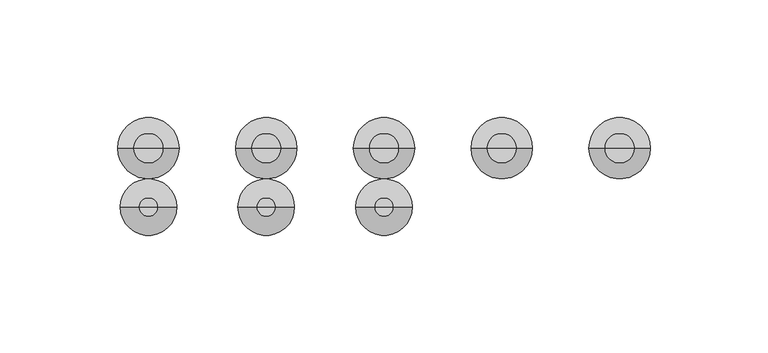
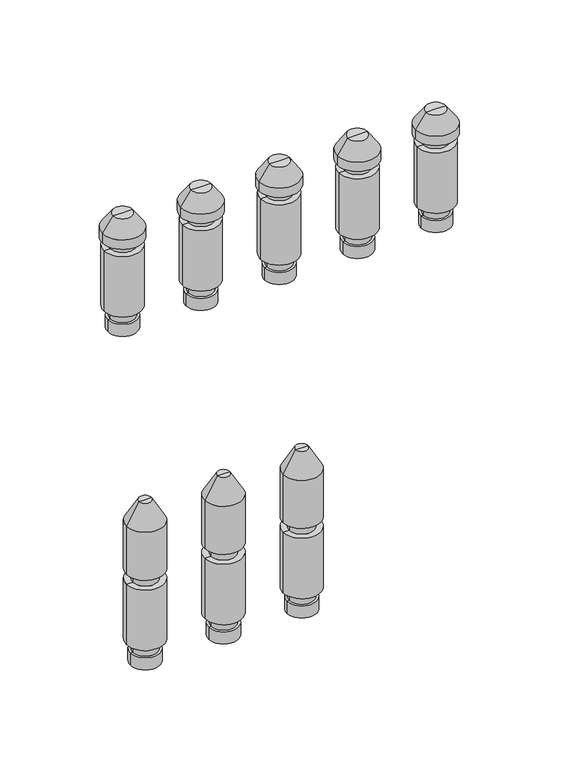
"""IFC4 building model written with IfcOpenShell, lengths in millimetres: valve geometry."""

from ifc_helpers import new_model, si_unit, frame, origin, place, context, project, spatial, polyline, circle_curve, source, transform, mapped, element, save
from ifc_brep_helpers import plane_surface, cylinder_surface, revolved_surface, advanced_brep


def valve_6797e1c4(model_context):
    return source(origin(), model_context, "Body", "AdvancedBrep", [
        advanced_brep(
        [(178.5, 0.0, -35.11267), (197.5, 0.0, -35.11267), (188.0, 0.0, -35.11267), (178.5, 0.0, -27.0369646), (197.5, 0.0, -27.0369646), (180.0, 0.0, -27.0369646), (196.0, 0.0, -27.0369646), (180.0, 0.0, -20.330253), (196.0, 0.0, -20.330253), (176.0, 0.0, -20.330253), (200.0, 0.0, -20.330253), (176.0, 0.0, 20.330253), (200.0, 0.0, 20.330253), (180.0, 0.0, 20.330253), (196.0, 0.0, 20.330253), (180.0, 0.0, 27.0474786), (196.0, 0.0, 27.0474786), (176.0, 0.0, 27.0474786), (200.0, 0.0, 27.0474786), (176.0, 0.0, 59.4084325), (200.0, 0.0, 59.4084325), (184.0, 0.0, 73.264839), (192.0, 0.0, 73.264839), (188.0, 0.0, 73.264839)],
        [
            (0, 1, circle_curve(frame((188.0, 0.0, -35.11267), z_axis=(0.0, 0.0, -1.0), x_axis=(1.0, 0.0, 0.0)), 9.5)),
            (1, 2),
            (2, 0),
            (1, 0, circle_curve(frame((188.0, 0.0, -35.11267), z_axis=(0.0, 0.0, -1.0), x_axis=(1.0, 0.0, 0.0)), 9.5)),
            (3, 4, circle_curve(frame((188.0, 0.0, -27.0369646), z_axis=(0.0, 0.0, -1.0), x_axis=(1.0, 0.0, 0.0)), 9.5)),
            (4, 1),
            (0, 3),
            (4, 3, circle_curve(frame((188.0, 0.0, -27.0369646), z_axis=(0.0, 0.0, -1.0), x_axis=(1.0, 0.0, 0.0)), 9.5)),
            (5, 6, circle_curve(frame((188.0, 0.0, -27.0369646), z_axis=(0.0, 0.0, -1.0), x_axis=(1.0, 0.0, 0.0)), 8.0)),
            (6, 4),
            (3, 5),
            (6, 5, circle_curve(frame((188.0, 0.0, -27.0369646), z_axis=(0.0, 0.0, -1.0), x_axis=(1.0, 0.0, 0.0)), 8.0)),
            (7, 8, circle_curve(frame((188.0, 0.0, -20.330253), z_axis=(0.0, 0.0, -1.0), x_axis=(1.0, 0.0, 0.0)), 8.0)),
            (8, 6),
            (5, 7),
            (8, 7, circle_curve(frame((188.0, 0.0, -20.330253), z_axis=(0.0, 0.0, -1.0), x_axis=(1.0, 0.0, 0.0)), 8.0)),
            (9, 10, circle_curve(frame((188.0, 0.0, -20.330253), z_axis=(0.0, 0.0, -1.0), x_axis=(1.0, 0.0, 0.0)), 12.0)),
            (10, 8),
            (7, 9),
            (10, 9, circle_curve(frame((188.0, 0.0, -20.330253), z_axis=(0.0, 0.0, -1.0), x_axis=(1.0, 0.0, 0.0)), 12.0)),
            (11, 12, circle_curve(frame((188.0, 0.0, 20.330253), z_axis=(0.0, 0.0, -1.0), x_axis=(1.0, 0.0, 0.0)), 12.0)),
            (12, 10),
            (9, 11),
            (12, 11, circle_curve(frame((188.0, 0.0, 20.330253), z_axis=(0.0, 0.0, -1.0), x_axis=(1.0, 0.0, 0.0)), 12.0)),
            (13, 14, circle_curve(frame((188.0, 0.0, 20.330253), z_axis=(0.0, 0.0, -1.0), x_axis=(1.0, 0.0, 0.0)), 8.0)),
            (14, 12),
            (11, 13),
            (14, 13, circle_curve(frame((188.0, 0.0, 20.330253), z_axis=(0.0, 0.0, -1.0), x_axis=(1.0, 0.0, 0.0)), 8.0)),
            (15, 16, circle_curve(frame((188.0, 0.0, 27.0474786), z_axis=(0.0, 0.0, -1.0), x_axis=(1.0, 0.0, 0.0)), 8.0)),
            (16, 14),
            (13, 15),
            (16, 15, circle_curve(frame((188.0, 0.0, 27.0474786), z_axis=(0.0, 0.0, -1.0), x_axis=(1.0, 0.0, 0.0)), 8.0)),
            (17, 18, circle_curve(frame((188.0, 0.0, 27.0474786), z_axis=(0.0, 0.0, -1.0), x_axis=(1.0, 0.0, 0.0)), 12.0)),
            (18, 16),
            (15, 17),
            (18, 17, circle_curve(frame((188.0, 0.0, 27.0474786), z_axis=(0.0, 0.0, -1.0), x_axis=(1.0, 0.0, 0.0)), 12.0)),
            (19, 20, circle_curve(frame((188.0, 0.0, 59.4084325), z_axis=(0.0, 0.0, -1.0), x_axis=(1.0, 0.0, 0.0)), 12.0)),
            (20, 18),
            (17, 19),
            (20, 19, circle_curve(frame((188.0, 0.0, 59.4084325), z_axis=(0.0, 0.0, -1.0), x_axis=(1.0, 0.0, 0.0)), 12.0)),
            (21, 22, circle_curve(frame((188.0, 0.0, 73.264839), z_axis=(0.0, 0.0, -1.0), x_axis=(1.0, 0.0, 0.0)), 4.0)),
            (22, 20),
            (19, 21),
            (22, 21, circle_curve(frame((188.0, 0.0, 73.264839), z_axis=(0.0, 0.0, -1.0), x_axis=(1.0, 0.0, 0.0)), 4.0)),
            (23, 22),
            (21, 23),
        ],
        [
            plane_surface(frame((188.0, 0.0, -35.11267), z_axis=(0.0, 0.0, -1.0), x_axis=(1.0, 0.0, 0.0))),
            cylinder_surface(frame((188.0, 0.0, 58.264839), z_axis=(0.0, 0.0, 1.0), x_axis=(1.0, 0.0, 0.0)), 9.5),
            plane_surface(frame((188.0, 0.0, -27.0369646), z_axis=(0.0, 0.0, 1.0), x_axis=(1.0, 0.0, 0.0))),
            cylinder_surface(frame((188.0, 0.0, 58.264839), z_axis=(0.0, 0.0, 1.0), x_axis=(1.0, 0.0, 0.0)), 8.0),
            plane_surface(frame((188.0, 0.0, -20.330253), z_axis=(0.0, 0.0, -1.0), x_axis=(1.0, 0.0, 0.0))),
            cylinder_surface(frame((188.0, 0.0, 58.264839), z_axis=(0.0, 0.0, 1.0), x_axis=(1.0, 0.0, 0.0)), 12.0),
            plane_surface(frame((188.0, 0.0, 20.330253), z_axis=(0.0, 0.0, 1.0), x_axis=(1.0, 0.0, 0.0))),
            plane_surface(frame((188.0, 0.0, 27.0474786), z_axis=(0.0, 0.0, -1.0), x_axis=(1.0, 0.0, 0.0))),
            revolved_surface(polyline([(200.0, 0.0, 59.4084325), (192.0, 0.0, 73.264839)]), (188.0, 0.0, 58.264839), (0.0, 0.0, 1.0)),
            plane_surface(frame((188.0, 0.0, 73.264839), z_axis=(0.0, 0.0, 1.0), x_axis=(1.0, 0.0, 0.0))),
        ],
        [
            (0, [[1, 2, 3]]),
            (0, [[4, -3, -2]]),
            (1, [[5, 6, -1, 7]]),
            (1, [[8, -7, -4, -6]]),
            (2, [[9, 10, -5, 11]]),
            (2, [[12, -11, -8, -10]]),
            (3, [[13, 14, -9, 15]]),
            (3, [[16, -15, -12, -14]]),
            (4, [[17, 18, -13, 19]]),
            (4, [[20, -19, -16, -18]]),
            (5, [[21, 22, -17, 23]]),
            (5, [[24, -23, -20, -22]]),
            (6, [[25, 26, -21, 27]]),
            (6, [[28, -27, -24, -26]]),
            (3, [[29, 30, -25, 31]]),
            (3, [[32, -31, -28, -30]]),
            (7, [[33, 34, -29, 35]]),
            (7, [[36, -35, -32, -34]]),
            (5, [[37, 38, -33, 39]]),
            (5, [[40, -39, -36, -38]]),
            (8, [[41, 42, -37, 43]]),
            (8, [[44, -43, -40, -42]]),
            (9, [[45, -41, 46]]),
            (9, [[-46, -44, -45]]),
        ],
    ),
        advanced_brep(
        [(128.5, 0.0, -35.11267), (147.5, 0.0, -35.11267), (138.0, 0.0, -35.11267), (128.5, 0.0, -27.0369646), (147.5, 0.0, -27.0369646), (130.0, 0.0, -27.0369646), (146.0, 0.0, -27.0369646), (130.0, 0.0, -20.330253), (146.0, 0.0, -20.330253), (126.0, 0.0, -20.330253), (150.0, 0.0, -20.330253), (126.0, 0.0, 20.330253), (150.0, 0.0, 20.330253), (130.0, 0.0, 20.330253), (146.0, 0.0, 20.330253), (130.0, 0.0, 27.0474786), (146.0, 0.0, 27.0474786), (126.0, 0.0, 27.0474786), (150.0, 0.0, 27.0474786), (126.0, 0.0, 59.4084325), (150.0, 0.0, 59.4084325), (134.0, 0.0, 73.264839), (142.0, 0.0, 73.264839), (138.0, 0.0, 73.264839)],
        [
            (0, 1, circle_curve(frame((138.0, 0.0, -35.11267), z_axis=(0.0, 0.0, -1.0), x_axis=(1.0, 0.0, 0.0)), 9.5)),
            (1, 2),
            (2, 0),
            (1, 0, circle_curve(frame((138.0, 0.0, -35.11267), z_axis=(0.0, 0.0, -1.0), x_axis=(1.0, 0.0, 0.0)), 9.5)),
            (3, 4, circle_curve(frame((138.0, 0.0, -27.0369646), z_axis=(0.0, 0.0, -1.0), x_axis=(1.0, 0.0, 0.0)), 9.5)),
            (4, 1),
            (0, 3),
            (4, 3, circle_curve(frame((138.0, 0.0, -27.0369646), z_axis=(0.0, 0.0, -1.0), x_axis=(1.0, 0.0, 0.0)), 9.5)),
            (5, 6, circle_curve(frame((138.0, 0.0, -27.0369646), z_axis=(0.0, 0.0, -1.0), x_axis=(1.0, 0.0, 0.0)), 8.0)),
            (6, 4),
            (3, 5),
            (6, 5, circle_curve(frame((138.0, 0.0, -27.0369646), z_axis=(0.0, 0.0, -1.0), x_axis=(1.0, 0.0, 0.0)), 8.0)),
            (7, 8, circle_curve(frame((138.0, 0.0, -20.330253), z_axis=(0.0, 0.0, -1.0), x_axis=(1.0, 0.0, 0.0)), 8.0)),
            (8, 6),
            (5, 7),
            (8, 7, circle_curve(frame((138.0, 0.0, -20.330253), z_axis=(0.0, 0.0, -1.0), x_axis=(1.0, 0.0, 0.0)), 8.0)),
            (9, 10, circle_curve(frame((138.0, 0.0, -20.330253), z_axis=(0.0, 0.0, -1.0), x_axis=(1.0, 0.0, 0.0)), 12.0)),
            (10, 8),
            (7, 9),
            (10, 9, circle_curve(frame((138.0, 0.0, -20.330253), z_axis=(0.0, 0.0, -1.0), x_axis=(1.0, 0.0, 0.0)), 12.0)),
            (11, 12, circle_curve(frame((138.0, 0.0, 20.330253), z_axis=(0.0, 0.0, -1.0), x_axis=(1.0, 0.0, 0.0)), 12.0)),
            (12, 10),
            (9, 11),
            (12, 11, circle_curve(frame((138.0, 0.0, 20.330253), z_axis=(0.0, 0.0, -1.0), x_axis=(1.0, 0.0, 0.0)), 12.0)),
            (13, 14, circle_curve(frame((138.0, 0.0, 20.330253), z_axis=(0.0, 0.0, -1.0), x_axis=(1.0, 0.0, 0.0)), 8.0)),
            (14, 12),
            (11, 13),
            (14, 13, circle_curve(frame((138.0, 0.0, 20.330253), z_axis=(0.0, 0.0, -1.0), x_axis=(1.0, 0.0, 0.0)), 8.0)),
            (15, 16, circle_curve(frame((138.0, 0.0, 27.0474786), z_axis=(0.0, 0.0, -1.0), x_axis=(1.0, 0.0, 0.0)), 8.0)),
            (16, 14),
            (13, 15),
            (16, 15, circle_curve(frame((138.0, 0.0, 27.0474786), z_axis=(0.0, 0.0, -1.0), x_axis=(1.0, 0.0, 0.0)), 8.0)),
            (17, 18, circle_curve(frame((138.0, 0.0, 27.0474786), z_axis=(0.0, 0.0, -1.0), x_axis=(1.0, 0.0, 0.0)), 12.0)),
            (18, 16),
            (15, 17),
            (18, 17, circle_curve(frame((138.0, 0.0, 27.0474786), z_axis=(0.0, 0.0, -1.0), x_axis=(1.0, 0.0, 0.0)), 12.0)),
            (19, 20, circle_curve(frame((138.0, 0.0, 59.4084325), z_axis=(0.0, 0.0, -1.0), x_axis=(1.0, 0.0, 0.0)), 12.0)),
            (20, 18),
            (17, 19),
            (20, 19, circle_curve(frame((138.0, 0.0, 59.4084325), z_axis=(0.0, 0.0, -1.0), x_axis=(1.0, 0.0, 0.0)), 12.0)),
            (21, 22, circle_curve(frame((138.0, 0.0, 73.264839), z_axis=(0.0, 0.0, -1.0), x_axis=(1.0, 0.0, 0.0)), 4.0)),
            (22, 20),
            (19, 21),
            (22, 21, circle_curve(frame((138.0, 0.0, 73.264839), z_axis=(0.0, 0.0, -1.0), x_axis=(1.0, 0.0, 0.0)), 4.0)),
            (23, 22),
            (21, 23),
        ],
        [
            plane_surface(frame((138.0, 0.0, -35.11267), z_axis=(0.0, 0.0, -1.0), x_axis=(1.0, 0.0, 0.0))),
            cylinder_surface(frame((138.0, 0.0, 58.264839), z_axis=(0.0, 0.0, 1.0), x_axis=(1.0, 0.0, 0.0)), 9.5),
            plane_surface(frame((138.0, 0.0, -27.0369646), z_axis=(0.0, 0.0, 1.0), x_axis=(1.0, 0.0, 0.0))),
            cylinder_surface(frame((138.0, 0.0, 58.264839), z_axis=(0.0, 0.0, 1.0), x_axis=(1.0, 0.0, 0.0)), 8.0),
            plane_surface(frame((138.0, 0.0, -20.330253), z_axis=(0.0, 0.0, -1.0), x_axis=(1.0, 0.0, 0.0))),
            cylinder_surface(frame((138.0, 0.0, 58.264839), z_axis=(0.0, 0.0, 1.0), x_axis=(1.0, 0.0, 0.0)), 12.0),
            plane_surface(frame((138.0, 0.0, 20.330253), z_axis=(0.0, 0.0, 1.0), x_axis=(1.0, 0.0, 0.0))),
            plane_surface(frame((138.0, 0.0, 27.0474786), z_axis=(0.0, 0.0, -1.0), x_axis=(1.0, 0.0, 0.0))),
            revolved_surface(polyline([(150.0, 0.0, 59.4084325), (142.0, 0.0, 73.264839)]), (138.0, 0.0, 58.264839), (0.0, 0.0, 1.0)),
            plane_surface(frame((138.0, 0.0, 73.264839), z_axis=(0.0, 0.0, 1.0), x_axis=(1.0, 0.0, 0.0))),
        ],
        [
            (0, [[1, 2, 3]]),
            (0, [[4, -3, -2]]),
            (1, [[5, 6, -1, 7]]),
            (1, [[8, -7, -4, -6]]),
            (2, [[9, 10, -5, 11]]),
            (2, [[12, -11, -8, -10]]),
            (3, [[13, 14, -9, 15]]),
            (3, [[16, -15, -12, -14]]),
            (4, [[17, 18, -13, 19]]),
            (4, [[20, -19, -16, -18]]),
            (5, [[21, 22, -17, 23]]),
            (5, [[24, -23, -20, -22]]),
            (6, [[25, 26, -21, 27]]),
            (6, [[28, -27, -24, -26]]),
            (3, [[29, 30, -25, 31]]),
            (3, [[32, -31, -28, -30]]),
            (7, [[33, 34, -29, 35]]),
            (7, [[36, -35, -32, -34]]),
            (5, [[37, 38, -33, 39]]),
            (5, [[40, -39, -36, -38]]),
            (8, [[41, 42, -37, 43]]),
            (8, [[44, -43, -40, -42]]),
            (9, [[45, -41, 46]]),
            (9, [[-46, -44, -45]]),
        ],
    ),
        advanced_brep(
        [(278.5, 25.0, 174.88733), (297.5, 25.0, 174.88733), (288.0, 25.0, 174.88733), (278.5, 25.0, 182.9630354), (297.5, 25.0, 182.9630354), (280.0, 25.0, 182.9630354), (296.0, 25.0, 182.9630354), (280.0, 25.0, 189.669747), (296.0, 25.0, 189.669747), (276.0, 25.0, 189.669747), (300.0, 25.0, 189.669747), (276.0, 25.0, 230.330253), (300.0, 25.0, 230.330253), (280.0, 25.0, 230.330253), (296.0, 25.0, 230.330253), (280.0, 25.0, 236.0474786), (296.0, 25.0, 236.0474786), (275.0, 25.0, 236.0474786), (301.0, 25.0, 236.0474786), (275.0, 25.0, 242.337955), (301.0, 25.0, 242.337955), (281.6551779, 25.0, 251.842534), (294.3448221, 25.0, 251.842534), (288.0, 25.0, 251.842534)],
        [
            (0, 1, circle_curve(frame((288.0, 25.0, 174.88733), z_axis=(0.0, 0.0, -1.0), x_axis=(1.0, 0.0, 0.0)), 9.5)),
            (1, 2),
            (2, 0),
            (1, 0, circle_curve(frame((288.0, 25.0, 174.88733), z_axis=(0.0, 0.0, -1.0), x_axis=(1.0, 0.0, 0.0)), 9.5)),
            (3, 4, circle_curve(frame((288.0, 25.0, 182.9630354), z_axis=(0.0, 0.0, -1.0), x_axis=(1.0, 0.0, 0.0)), 9.5)),
            (4, 1),
            (0, 3),
            (4, 3, circle_curve(frame((288.0, 25.0, 182.9630354), z_axis=(0.0, 0.0, -1.0), x_axis=(1.0, 0.0, 0.0)), 9.5)),
            (5, 6, circle_curve(frame((288.0, 25.0, 182.9630354), z_axis=(0.0, 0.0, -1.0), x_axis=(1.0, 0.0, 0.0)), 8.0)),
            (6, 4),
            (3, 5),
            (6, 5, circle_curve(frame((288.0, 25.0, 182.9630354), z_axis=(0.0, 0.0, -1.0), x_axis=(1.0, 0.0, 0.0)), 8.0)),
            (7, 8, circle_curve(frame((288.0, 25.0, 189.669747), z_axis=(0.0, 0.0, -1.0), x_axis=(1.0, 0.0, 0.0)), 8.0)),
            (8, 6),
            (5, 7),
            (8, 7, circle_curve(frame((288.0, 25.0, 189.669747), z_axis=(0.0, 0.0, -1.0), x_axis=(1.0, 0.0, 0.0)), 8.0)),
            (9, 10, circle_curve(frame((288.0, 25.0, 189.669747), z_axis=(0.0, 0.0, -1.0), x_axis=(1.0, 0.0, 0.0)), 12.0)),
            (10, 8),
            (7, 9),
            (10, 9, circle_curve(frame((288.0, 25.0, 189.669747), z_axis=(0.0, 0.0, -1.0), x_axis=(1.0, 0.0, 0.0)), 12.0)),
            (11, 12, circle_curve(frame((288.0, 25.0, 230.330253), z_axis=(0.0, 0.0, -1.0), x_axis=(1.0, 0.0, 0.0)), 12.0)),
            (12, 10),
            (9, 11),
            (12, 11, circle_curve(frame((288.0, 25.0, 230.330253), z_axis=(0.0, 0.0, -1.0), x_axis=(1.0, 0.0, 0.0)), 12.0)),
            (13, 14, circle_curve(frame((288.0, 25.0, 230.330253), z_axis=(0.0, 0.0, -1.0), x_axis=(1.0, 0.0, 0.0)), 8.0)),
            (14, 12),
            (11, 13),
            (14, 13, circle_curve(frame((288.0, 25.0, 230.330253), z_axis=(0.0, 0.0, -1.0), x_axis=(1.0, 0.0, 0.0)), 8.0)),
            (15, 16, circle_curve(frame((288.0, 25.0, 236.0474786), z_axis=(0.0, 0.0, -1.0), x_axis=(1.0, 0.0, 0.0)), 8.0)),
            (16, 14),
            (13, 15),
            (16, 15, circle_curve(frame((288.0, 25.0, 236.0474786), z_axis=(0.0, 0.0, -1.0), x_axis=(1.0, 0.0, 0.0)), 8.0)),
            (17, 18, circle_curve(frame((288.0, 25.0, 236.0474786), z_axis=(0.0, 0.0, -1.0), x_axis=(1.0, 0.0, 0.0)), 13.0)),
            (18, 16),
            (15, 17),
            (18, 17, circle_curve(frame((288.0, 25.0, 236.0474786), z_axis=(0.0, 0.0, -1.0), x_axis=(1.0, 0.0, 0.0)), 13.0)),
            (19, 20, circle_curve(frame((288.0, 25.0, 242.337955), z_axis=(0.0, 0.0, -1.0), x_axis=(1.0, 0.0, 0.0)), 13.0)),
            (20, 18),
            (17, 19),
            (20, 19, circle_curve(frame((288.0, 25.0, 242.337955), z_axis=(0.0, 0.0, -1.0), x_axis=(1.0, 0.0, 0.0)), 13.0)),
            (21, 22, circle_curve(frame((288.0, 25.0, 251.842534), z_axis=(0.0, 0.0, -1.0), x_axis=(1.0, 0.0, 0.0)), 6.3448221)),
            (22, 20),
            (19, 21),
            (22, 21, circle_curve(frame((288.0, 25.0, 251.842534), z_axis=(0.0, 0.0, -1.0), x_axis=(1.0, 0.0, 0.0)), 6.3448221)),
            (23, 22),
            (21, 23),
        ],
        [
            plane_surface(frame((288.0, 25.0, 174.88733), z_axis=(0.0, 0.0, -1.0), x_axis=(1.0, 0.0, 0.0))),
            cylinder_surface(frame((288.0, 25.0, 247.7026565), z_axis=(0.0, 0.0, 1.0), x_axis=(1.0, 0.0, 0.0)), 9.5),
            plane_surface(frame((288.0, 25.0, 182.9630354), z_axis=(0.0, 0.0, 1.0), x_axis=(1.0, 0.0, 0.0))),
            cylinder_surface(frame((288.0, 25.0, 247.7026565), z_axis=(0.0, 0.0, 1.0), x_axis=(1.0, 0.0, 0.0)), 8.0),
            plane_surface(frame((288.0, 25.0, 189.669747), z_axis=(0.0, 0.0, -1.0), x_axis=(1.0, 0.0, 0.0))),
            cylinder_surface(frame((288.0, 25.0, 247.7026565), z_axis=(0.0, 0.0, 1.0), x_axis=(1.0, 0.0, 0.0)), 12.0),
            plane_surface(frame((288.0, 25.0, 230.330253), z_axis=(0.0, 0.0, 1.0), x_axis=(1.0, 0.0, 0.0))),
            plane_surface(frame((288.0, 25.0, 236.0474786), z_axis=(0.0, 0.0, -1.0), x_axis=(1.0, 0.0, 0.0))),
            cylinder_surface(frame((288.0, 25.0, 247.7026565), z_axis=(0.0, 0.0, 1.0), x_axis=(1.0, 0.0, 0.0)), 13.0),
            revolved_surface(polyline([(301.0, 25.0, 242.337955), (294.3448221, 25.0, 251.842534)]), (288.0, 25.0, 247.7026565), (0.0, 0.0, 1.0)),
            plane_surface(frame((288.0, 25.0, 251.842534), z_axis=(0.0, 0.0, 1.0), x_axis=(1.0, 0.0, 0.0))),
        ],
        [
            (0, [[1, 2, 3]]),
            (0, [[4, -3, -2]]),
            (1, [[5, 6, -1, 7]]),
            (1, [[8, -7, -4, -6]]),
            (2, [[9, 10, -5, 11]]),
            (2, [[12, -11, -8, -10]]),
            (3, [[13, 14, -9, 15]]),
            (3, [[16, -15, -12, -14]]),
            (4, [[17, 18, -13, 19]]),
            (4, [[20, -19, -16, -18]]),
            (5, [[21, 22, -17, 23]]),
            (5, [[24, -23, -20, -22]]),
            (6, [[25, 26, -21, 27]]),
            (6, [[28, -27, -24, -26]]),
            (3, [[29, 30, -25, 31]]),
            (3, [[32, -31, -28, -30]]),
            (7, [[33, 34, -29, 35]]),
            (7, [[36, -35, -32, -34]]),
            (8, [[37, 38, -33, 39]]),
            (8, [[40, -39, -36, -38]]),
            (9, [[41, 42, -37, 43]]),
            (9, [[44, -43, -40, -42]]),
            (10, [[45, -41, 46]]),
            (10, [[-46, -44, -45]]),
        ],
    ),
        advanced_brep(
        [(228.5, 25.0, 174.88733), (247.5, 25.0, 174.88733), (238.0, 25.0, 174.88733), (228.5, 25.0, 182.9630354), (247.5, 25.0, 182.9630354), (230.0, 25.0, 182.9630354), (246.0, 25.0, 182.9630354), (230.0, 25.0, 189.669747), (246.0, 25.0, 189.669747), (226.0, 25.0, 189.669747), (250.0, 25.0, 189.669747), (226.0, 25.0, 230.330253), (250.0, 25.0, 230.330253), (230.0, 25.0, 230.330253), (246.0, 25.0, 230.330253), (230.0, 25.0, 236.0474786), (246.0, 25.0, 236.0474786), (225.0, 25.0, 236.0474786), (251.0, 25.0, 236.0474786), (225.0, 25.0, 242.337955), (251.0, 25.0, 242.337955), (231.6551779, 25.0, 251.842534), (244.3448221, 25.0, 251.842534), (238.0, 25.0, 251.842534)],
        [
            (0, 1, circle_curve(frame((238.0, 25.0, 174.88733), z_axis=(0.0, 0.0, -1.0), x_axis=(1.0, 0.0, 0.0)), 9.5)),
            (1, 2),
            (2, 0),
            (1, 0, circle_curve(frame((238.0, 25.0, 174.88733), z_axis=(0.0, 0.0, -1.0), x_axis=(1.0, 0.0, 0.0)), 9.5)),
            (3, 4, circle_curve(frame((238.0, 25.0, 182.9630354), z_axis=(0.0, 0.0, -1.0), x_axis=(1.0, 0.0, 0.0)), 9.5)),
            (4, 1),
            (0, 3),
            (4, 3, circle_curve(frame((238.0, 25.0, 182.9630354), z_axis=(0.0, 0.0, -1.0), x_axis=(1.0, 0.0, 0.0)), 9.5)),
            (5, 6, circle_curve(frame((238.0, 25.0, 182.9630354), z_axis=(0.0, 0.0, -1.0), x_axis=(1.0, 0.0, 0.0)), 8.0)),
            (6, 4),
            (3, 5),
            (6, 5, circle_curve(frame((238.0, 25.0, 182.9630354), z_axis=(0.0, 0.0, -1.0), x_axis=(1.0, 0.0, 0.0)), 8.0)),
            (7, 8, circle_curve(frame((238.0, 25.0, 189.669747), z_axis=(0.0, 0.0, -1.0), x_axis=(1.0, 0.0, 0.0)), 8.0)),
            (8, 6),
            (5, 7),
            (8, 7, circle_curve(frame((238.0, 25.0, 189.669747), z_axis=(0.0, 0.0, -1.0), x_axis=(1.0, 0.0, 0.0)), 8.0)),
            (9, 10, circle_curve(frame((238.0, 25.0, 189.669747), z_axis=(0.0, 0.0, -1.0), x_axis=(1.0, 0.0, 0.0)), 12.0)),
            (10, 8),
            (7, 9),
            (10, 9, circle_curve(frame((238.0, 25.0, 189.669747), z_axis=(0.0, 0.0, -1.0), x_axis=(1.0, 0.0, 0.0)), 12.0)),
            (11, 12, circle_curve(frame((238.0, 25.0, 230.330253), z_axis=(0.0, 0.0, -1.0), x_axis=(1.0, 0.0, 0.0)), 12.0)),
            (12, 10),
            (9, 11),
            (12, 11, circle_curve(frame((238.0, 25.0, 230.330253), z_axis=(0.0, 0.0, -1.0), x_axis=(1.0, 0.0, 0.0)), 12.0)),
            (13, 14, circle_curve(frame((238.0, 25.0, 230.330253), z_axis=(0.0, 0.0, -1.0), x_axis=(1.0, 0.0, 0.0)), 8.0)),
            (14, 12),
            (11, 13),
            (14, 13, circle_curve(frame((238.0, 25.0, 230.330253), z_axis=(0.0, 0.0, -1.0), x_axis=(1.0, 0.0, 0.0)), 8.0)),
            (15, 16, circle_curve(frame((238.0, 25.0, 236.0474786), z_axis=(0.0, 0.0, -1.0), x_axis=(1.0, 0.0, 0.0)), 8.0)),
            (16, 14),
            (13, 15),
            (16, 15, circle_curve(frame((238.0, 25.0, 236.0474786), z_axis=(0.0, 0.0, -1.0), x_axis=(1.0, 0.0, 0.0)), 8.0)),
            (17, 18, circle_curve(frame((238.0, 25.0, 236.0474786), z_axis=(0.0, 0.0, -1.0), x_axis=(1.0, 0.0, 0.0)), 13.0)),
            (18, 16),
            (15, 17),
            (18, 17, circle_curve(frame((238.0, 25.0, 236.0474786), z_axis=(0.0, 0.0, -1.0), x_axis=(1.0, 0.0, 0.0)), 13.0)),
            (19, 20, circle_curve(frame((238.0, 25.0, 242.337955), z_axis=(0.0, 0.0, -1.0), x_axis=(1.0, 0.0, 0.0)), 13.0)),
            (20, 18),
            (17, 19),
            (20, 19, circle_curve(frame((238.0, 25.0, 242.337955), z_axis=(0.0, 0.0, -1.0), x_axis=(1.0, 0.0, 0.0)), 13.0)),
            (21, 22, circle_curve(frame((238.0, 25.0, 251.842534), z_axis=(0.0, 0.0, -1.0), x_axis=(1.0, 0.0, 0.0)), 6.3448221)),
            (22, 20),
            (19, 21),
            (22, 21, circle_curve(frame((238.0, 25.0, 251.842534), z_axis=(0.0, 0.0, -1.0), x_axis=(1.0, 0.0, 0.0)), 6.3448221)),
            (23, 22),
            (21, 23),
        ],
        [
            plane_surface(frame((238.0, 25.0, 174.88733), z_axis=(0.0, 0.0, -1.0), x_axis=(1.0, 0.0, 0.0))),
            cylinder_surface(frame((238.0, 25.0, 247.7026565), z_axis=(0.0, 0.0, 1.0), x_axis=(1.0, 0.0, 0.0)), 9.5),
            plane_surface(frame((238.0, 25.0, 182.9630354), z_axis=(0.0, 0.0, 1.0), x_axis=(1.0, 0.0, 0.0))),
            cylinder_surface(frame((238.0, 25.0, 247.7026565), z_axis=(0.0, 0.0, 1.0), x_axis=(1.0, 0.0, 0.0)), 8.0),
            plane_surface(frame((238.0, 25.0, 189.669747), z_axis=(0.0, 0.0, -1.0), x_axis=(1.0, 0.0, 0.0))),
            cylinder_surface(frame((238.0, 25.0, 247.7026565), z_axis=(0.0, 0.0, 1.0), x_axis=(1.0, 0.0, 0.0)), 12.0),
            plane_surface(frame((238.0, 25.0, 230.330253), z_axis=(0.0, 0.0, 1.0), x_axis=(1.0, 0.0, 0.0))),
            plane_surface(frame((238.0, 25.0, 236.0474786), z_axis=(0.0, 0.0, -1.0), x_axis=(1.0, 0.0, 0.0))),
            cylinder_surface(frame((238.0, 25.0, 247.7026565), z_axis=(0.0, 0.0, 1.0), x_axis=(1.0, 0.0, 0.0)), 13.0),
            revolved_surface(polyline([(251.0, 25.0, 242.337955), (244.3448221, 25.0, 251.842534)]), (238.0, 25.0, 247.7026565), (0.0, 0.0, 1.0)),
            plane_surface(frame((238.0, 25.0, 251.842534), z_axis=(0.0, 0.0, 1.0), x_axis=(1.0, 0.0, 0.0))),
        ],
        [
            (0, [[1, 2, 3]]),
            (0, [[4, -3, -2]]),
            (1, [[5, 6, -1, 7]]),
            (1, [[8, -7, -4, -6]]),
            (2, [[9, 10, -5, 11]]),
            (2, [[12, -11, -8, -10]]),
            (3, [[13, 14, -9, 15]]),
            (3, [[16, -15, -12, -14]]),
            (4, [[17, 18, -13, 19]]),
            (4, [[20, -19, -16, -18]]),
            (5, [[21, 22, -17, 23]]),
            (5, [[24, -23, -20, -22]]),
            (6, [[25, 26, -21, 27]]),
            (6, [[28, -27, -24, -26]]),
            (3, [[29, 30, -25, 31]]),
            (3, [[32, -31, -28, -30]]),
            (7, [[33, 34, -29, 35]]),
            (7, [[36, -35, -32, -34]]),
            (8, [[37, 38, -33, 39]]),
            (8, [[40, -39, -36, -38]]),
            (9, [[41, 42, -37, 43]]),
            (9, [[44, -43, -40, -42]]),
            (10, [[45, -41, 46]]),
            (10, [[-46, -44, -45]]),
        ],
    ),
        advanced_brep(
        [(178.5, 25.0, 174.88733), (197.5, 25.0, 174.88733), (188.0, 25.0, 174.88733), (178.5, 25.0, 182.9630354), (197.5, 25.0, 182.9630354), (180.0, 25.0, 182.9630354), (196.0, 25.0, 182.9630354), (180.0, 25.0, 189.669747), (196.0, 25.0, 189.669747), (176.0, 25.0, 189.669747), (200.0, 25.0, 189.669747), (176.0, 25.0, 230.330253), (200.0, 25.0, 230.330253), (180.0, 25.0, 230.330253), (196.0, 25.0, 230.330253), (180.0, 25.0, 236.0474786), (196.0, 25.0, 236.0474786), (175.0, 25.0, 236.0474786), (201.0, 25.0, 236.0474786), (175.0, 25.0, 242.337955), (201.0, 25.0, 242.337955), (181.6551779, 25.0, 251.842534), (194.3448221, 25.0, 251.842534), (188.0, 25.0, 251.842534)],
        [
            (0, 1, circle_curve(frame((188.0, 25.0, 174.88733), z_axis=(0.0, 0.0, -1.0), x_axis=(1.0, 0.0, 0.0)), 9.5)),
            (1, 2),
            (2, 0),
            (1, 0, circle_curve(frame((188.0, 25.0, 174.88733), z_axis=(0.0, 0.0, -1.0), x_axis=(1.0, 0.0, 0.0)), 9.5)),
            (3, 4, circle_curve(frame((188.0, 25.0, 182.9630354), z_axis=(0.0, 0.0, -1.0), x_axis=(1.0, 0.0, 0.0)), 9.5)),
            (4, 1),
            (0, 3),
            (4, 3, circle_curve(frame((188.0, 25.0, 182.9630354), z_axis=(0.0, 0.0, -1.0), x_axis=(1.0, 0.0, 0.0)), 9.5)),
            (5, 6, circle_curve(frame((188.0, 25.0, 182.9630354), z_axis=(0.0, 0.0, -1.0), x_axis=(1.0, 0.0, 0.0)), 8.0)),
            (6, 4),
            (3, 5),
            (6, 5, circle_curve(frame((188.0, 25.0, 182.9630354), z_axis=(0.0, 0.0, -1.0), x_axis=(1.0, 0.0, 0.0)), 8.0)),
            (7, 8, circle_curve(frame((188.0, 25.0, 189.669747), z_axis=(0.0, 0.0, -1.0), x_axis=(1.0, 0.0, 0.0)), 8.0)),
            (8, 6),
            (5, 7),
            (8, 7, circle_curve(frame((188.0, 25.0, 189.669747), z_axis=(0.0, 0.0, -1.0), x_axis=(1.0, 0.0, 0.0)), 8.0)),
            (9, 10, circle_curve(frame((188.0, 25.0, 189.669747), z_axis=(0.0, 0.0, -1.0), x_axis=(1.0, 0.0, 0.0)), 12.0)),
            (10, 8),
            (7, 9),
            (10, 9, circle_curve(frame((188.0, 25.0, 189.669747), z_axis=(0.0, 0.0, -1.0), x_axis=(1.0, 0.0, 0.0)), 12.0)),
            (11, 12, circle_curve(frame((188.0, 25.0, 230.330253), z_axis=(0.0, 0.0, -1.0), x_axis=(1.0, 0.0, 0.0)), 12.0)),
            (12, 10),
            (9, 11),
            (12, 11, circle_curve(frame((188.0, 25.0, 230.330253), z_axis=(0.0, 0.0, -1.0), x_axis=(1.0, 0.0, 0.0)), 12.0)),
            (13, 14, circle_curve(frame((188.0, 25.0, 230.330253), z_axis=(0.0, 0.0, -1.0), x_axis=(1.0, 0.0, 0.0)), 8.0)),
            (14, 12),
            (11, 13),
            (14, 13, circle_curve(frame((188.0, 25.0, 230.330253), z_axis=(0.0, 0.0, -1.0), x_axis=(1.0, 0.0, 0.0)), 8.0)),
            (15, 16, circle_curve(frame((188.0, 25.0, 236.0474786), z_axis=(0.0, 0.0, -1.0), x_axis=(1.0, 0.0, 0.0)), 8.0)),
            (16, 14),
            (13, 15),
            (16, 15, circle_curve(frame((188.0, 25.0, 236.0474786), z_axis=(0.0, 0.0, -1.0), x_axis=(1.0, 0.0, 0.0)), 8.0)),
            (17, 18, circle_curve(frame((188.0, 25.0, 236.0474786), z_axis=(0.0, 0.0, -1.0), x_axis=(1.0, 0.0, 0.0)), 13.0)),
            (18, 16),
            (15, 17),
            (18, 17, circle_curve(frame((188.0, 25.0, 236.0474786), z_axis=(0.0, 0.0, -1.0), x_axis=(1.0, 0.0, 0.0)), 13.0)),
            (19, 20, circle_curve(frame((188.0, 25.0, 242.337955), z_axis=(0.0, 0.0, -1.0), x_axis=(1.0, 0.0, 0.0)), 13.0)),
            (20, 18),
            (17, 19),
            (20, 19, circle_curve(frame((188.0, 25.0, 242.337955), z_axis=(0.0, 0.0, -1.0), x_axis=(1.0, 0.0, 0.0)), 13.0)),
            (21, 22, circle_curve(frame((188.0, 25.0, 251.842534), z_axis=(0.0, 0.0, -1.0), x_axis=(1.0, 0.0, 0.0)), 6.3448221)),
            (22, 20),
            (19, 21),
            (22, 21, circle_curve(frame((188.0, 25.0, 251.842534), z_axis=(0.0, 0.0, -1.0), x_axis=(1.0, 0.0, 0.0)), 6.3448221)),
            (23, 22),
            (21, 23),
        ],
        [
            plane_surface(frame((188.0, 25.0, 174.88733), z_axis=(0.0, 0.0, -1.0), x_axis=(1.0, 0.0, 0.0))),
            cylinder_surface(frame((188.0, 25.0, 247.7026565), z_axis=(0.0, 0.0, 1.0), x_axis=(1.0, 0.0, 0.0)), 9.5),
            plane_surface(frame((188.0, 25.0, 182.9630354), z_axis=(0.0, 0.0, 1.0), x_axis=(1.0, 0.0, 0.0))),
            cylinder_surface(frame((188.0, 25.0, 247.7026565), z_axis=(0.0, 0.0, 1.0), x_axis=(1.0, 0.0, 0.0)), 8.0),
            plane_surface(frame((188.0, 25.0, 189.669747), z_axis=(0.0, 0.0, -1.0), x_axis=(1.0, 0.0, 0.0))),
            cylinder_surface(frame((188.0, 25.0, 247.7026565), z_axis=(0.0, 0.0, 1.0), x_axis=(1.0, 0.0, 0.0)), 12.0),
            plane_surface(frame((188.0, 25.0, 230.330253), z_axis=(0.0, 0.0, 1.0), x_axis=(1.0, 0.0, 0.0))),
            plane_surface(frame((188.0, 25.0, 236.0474786), z_axis=(0.0, 0.0, -1.0), x_axis=(1.0, 0.0, 0.0))),
            cylinder_surface(frame((188.0, 25.0, 247.7026565), z_axis=(0.0, 0.0, 1.0), x_axis=(1.0, 0.0, 0.0)), 13.0),
            revolved_surface(polyline([(201.0, 25.0, 242.337955), (194.3448221, 25.0, 251.842534)]), (188.0, 25.0, 247.7026565), (0.0, 0.0, 1.0)),
            plane_surface(frame((188.0, 25.0, 251.842534), z_axis=(0.0, 0.0, 1.0), x_axis=(1.0, 0.0, 0.0))),
        ],
        [
            (0, [[1, 2, 3]]),
            (0, [[4, -3, -2]]),
            (1, [[5, 6, -1, 7]]),
            (1, [[8, -7, -4, -6]]),
            (2, [[9, 10, -5, 11]]),
            (2, [[12, -11, -8, -10]]),
            (3, [[13, 14, -9, 15]]),
            (3, [[16, -15, -12, -14]]),
            (4, [[17, 18, -13, 19]]),
            (4, [[20, -19, -16, -18]]),
            (5, [[21, 22, -17, 23]]),
            (5, [[24, -23, -20, -22]]),
            (6, [[25, 26, -21, 27]]),
            (6, [[28, -27, -24, -26]]),
            (3, [[29, 30, -25, 31]]),
            (3, [[32, -31, -28, -30]]),
            (7, [[33, 34, -29, 35]]),
            (7, [[36, -35, -32, -34]]),
            (8, [[37, 38, -33, 39]]),
            (8, [[40, -39, -36, -38]]),
            (9, [[41, 42, -37, 43]]),
            (9, [[44, -43, -40, -42]]),
            (10, [[45, -41, 46]]),
            (10, [[-46, -44, -45]]),
        ],
    ),
        advanced_brep(
        [(128.5, 25.0, 174.88733), (147.5, 25.0, 174.88733), (138.0, 25.0, 174.88733), (128.5, 25.0, 182.9630354), (147.5, 25.0, 182.9630354), (130.0, 25.0, 182.9630354), (146.0, 25.0, 182.9630354), (130.0, 25.0, 189.669747), (146.0, 25.0, 189.669747), (126.0, 25.0, 189.669747), (150.0, 25.0, 189.669747), (126.0, 25.0, 230.330253), (150.0, 25.0, 230.330253), (130.0, 25.0, 230.330253), (146.0, 25.0, 230.330253), (130.0, 25.0, 236.0474786), (146.0, 25.0, 236.0474786), (125.0, 25.0, 236.0474786), (151.0, 25.0, 236.0474786), (125.0, 25.0, 242.337955), (151.0, 25.0, 242.337955), (131.6551779, 25.0, 251.842534), (144.3448221, 25.0, 251.842534), (138.0, 25.0, 251.842534)],
        [
            (0, 1, circle_curve(frame((138.0, 25.0, 174.88733), z_axis=(0.0, 0.0, -1.0), x_axis=(1.0, 0.0, 0.0)), 9.5)),
            (1, 2),
            (2, 0),
            (1, 0, circle_curve(frame((138.0, 25.0, 174.88733), z_axis=(0.0, 0.0, -1.0), x_axis=(1.0, 0.0, 0.0)), 9.5)),
            (3, 4, circle_curve(frame((138.0, 25.0, 182.9630354), z_axis=(0.0, 0.0, -1.0), x_axis=(1.0, 0.0, 0.0)), 9.5)),
            (4, 1),
            (0, 3),
            (4, 3, circle_curve(frame((138.0, 25.0, 182.9630354), z_axis=(0.0, 0.0, -1.0), x_axis=(1.0, 0.0, 0.0)), 9.5)),
            (5, 6, circle_curve(frame((138.0, 25.0, 182.9630354), z_axis=(0.0, 0.0, -1.0), x_axis=(1.0, 0.0, 0.0)), 8.0)),
            (6, 4),
            (3, 5),
            (6, 5, circle_curve(frame((138.0, 25.0, 182.9630354), z_axis=(0.0, 0.0, -1.0), x_axis=(1.0, 0.0, 0.0)), 8.0)),
            (7, 8, circle_curve(frame((138.0, 25.0, 189.669747), z_axis=(0.0, 0.0, -1.0), x_axis=(1.0, 0.0, 0.0)), 8.0)),
            (8, 6),
            (5, 7),
            (8, 7, circle_curve(frame((138.0, 25.0, 189.669747), z_axis=(0.0, 0.0, -1.0), x_axis=(1.0, 0.0, 0.0)), 8.0)),
            (9, 10, circle_curve(frame((138.0, 25.0, 189.669747), z_axis=(0.0, 0.0, -1.0), x_axis=(1.0, 0.0, 0.0)), 12.0)),
            (10, 8),
            (7, 9),
            (10, 9, circle_curve(frame((138.0, 25.0, 189.669747), z_axis=(0.0, 0.0, -1.0), x_axis=(1.0, 0.0, 0.0)), 12.0)),
            (11, 12, circle_curve(frame((138.0, 25.0, 230.330253), z_axis=(0.0, 0.0, -1.0), x_axis=(1.0, 0.0, 0.0)), 12.0)),
            (12, 10),
            (9, 11),
            (12, 11, circle_curve(frame((138.0, 25.0, 230.330253), z_axis=(0.0, 0.0, -1.0), x_axis=(1.0, 0.0, 0.0)), 12.0)),
            (13, 14, circle_curve(frame((138.0, 25.0, 230.330253), z_axis=(0.0, 0.0, -1.0), x_axis=(1.0, 0.0, 0.0)), 8.0)),
            (14, 12),
            (11, 13),
            (14, 13, circle_curve(frame((138.0, 25.0, 230.330253), z_axis=(0.0, 0.0, -1.0), x_axis=(1.0, 0.0, 0.0)), 8.0)),
            (15, 16, circle_curve(frame((138.0, 25.0, 236.0474786), z_axis=(0.0, 0.0, -1.0), x_axis=(1.0, 0.0, 0.0)), 8.0)),
            (16, 14),
            (13, 15),
            (16, 15, circle_curve(frame((138.0, 25.0, 236.0474786), z_axis=(0.0, 0.0, -1.0), x_axis=(1.0, 0.0, 0.0)), 8.0)),
            (17, 18, circle_curve(frame((138.0, 25.0, 236.0474786), z_axis=(0.0, 0.0, -1.0), x_axis=(1.0, 0.0, 0.0)), 13.0)),
            (18, 16),
            (15, 17),
            (18, 17, circle_curve(frame((138.0, 25.0, 236.0474786), z_axis=(0.0, 0.0, -1.0), x_axis=(1.0, 0.0, 0.0)), 13.0)),
            (19, 20, circle_curve(frame((138.0, 25.0, 242.337955), z_axis=(0.0, 0.0, -1.0), x_axis=(1.0, 0.0, 0.0)), 13.0)),
            (20, 18),
            (17, 19),
            (20, 19, circle_curve(frame((138.0, 25.0, 242.337955), z_axis=(0.0, 0.0, -1.0), x_axis=(1.0, 0.0, 0.0)), 13.0)),
            (21, 22, circle_curve(frame((138.0, 25.0, 251.842534), z_axis=(0.0, 0.0, -1.0), x_axis=(1.0, 0.0, 0.0)), 6.3448221)),
            (22, 20),
            (19, 21),
            (22, 21, circle_curve(frame((138.0, 25.0, 251.842534), z_axis=(0.0, 0.0, -1.0), x_axis=(1.0, 0.0, 0.0)), 6.3448221)),
            (23, 22),
            (21, 23),
        ],
        [
            plane_surface(frame((138.0, 25.0, 174.88733), z_axis=(0.0, 0.0, -1.0), x_axis=(1.0, 0.0, 0.0))),
            cylinder_surface(frame((138.0, 25.0, 247.7026565), z_axis=(0.0, 0.0, 1.0), x_axis=(1.0, 0.0, 0.0)), 9.5),
            plane_surface(frame((138.0, 25.0, 182.9630354), z_axis=(0.0, 0.0, 1.0), x_axis=(1.0, 0.0, 0.0))),
            cylinder_surface(frame((138.0, 25.0, 247.7026565), z_axis=(0.0, 0.0, 1.0), x_axis=(1.0, 0.0, 0.0)), 8.0),
            plane_surface(frame((138.0, 25.0, 189.669747), z_axis=(0.0, 0.0, -1.0), x_axis=(1.0, 0.0, 0.0))),
            cylinder_surface(frame((138.0, 25.0, 247.7026565), z_axis=(0.0, 0.0, 1.0), x_axis=(1.0, 0.0, 0.0)), 12.0),
            plane_surface(frame((138.0, 25.0, 230.330253), z_axis=(0.0, 0.0, 1.0), x_axis=(1.0, 0.0, 0.0))),
            plane_surface(frame((138.0, 25.0, 236.0474786), z_axis=(0.0, 0.0, -1.0), x_axis=(1.0, 0.0, 0.0))),
            cylinder_surface(frame((138.0, 25.0, 247.7026565), z_axis=(0.0, 0.0, 1.0), x_axis=(1.0, 0.0, 0.0)), 13.0),
            revolved_surface(polyline([(151.0, 25.0, 242.337955), (144.3448221, 25.0, 251.842534)]), (138.0, 25.0, 247.7026565), (0.0, 0.0, 1.0)),
            plane_surface(frame((138.0, 25.0, 251.842534), z_axis=(0.0, 0.0, 1.0), x_axis=(1.0, 0.0, 0.0))),
        ],
        [
            (0, [[1, 2, 3]]),
            (0, [[4, -3, -2]]),
            (1, [[5, 6, -1, 7]]),
            (1, [[8, -7, -4, -6]]),
            (2, [[9, 10, -5, 11]]),
            (2, [[12, -11, -8, -10]]),
            (3, [[13, 14, -9, 15]]),
            (3, [[16, -15, -12, -14]]),
            (4, [[17, 18, -13, 19]]),
            (4, [[20, -19, -16, -18]]),
            (5, [[21, 22, -17, 23]]),
            (5, [[24, -23, -20, -22]]),
            (6, [[25, 26, -21, 27]]),
            (6, [[28, -27, -24, -26]]),
            (3, [[29, 30, -25, 31]]),
            (3, [[32, -31, -28, -30]]),
            (7, [[33, 34, -29, 35]]),
            (7, [[36, -35, -32, -34]]),
            (8, [[37, 38, -33, 39]]),
            (8, [[40, -39, -36, -38]]),
            (9, [[41, 42, -37, 43]]),
            (9, [[44, -43, -40, -42]]),
            (10, [[45, -41, 46]]),
            (10, [[-46, -44, -45]]),
        ],
    ),
        advanced_brep(
        [(78.5, 0.0, -35.11267), (97.5, 0.0, -35.11267), (88.0, 0.0, -35.11267), (78.5, 0.0, -27.0369646), (97.5, 0.0, -27.0369646), (80.0, 0.0, -27.0369646), (96.0, 0.0, -27.0369646), (80.0, 0.0, -20.330253), (96.0, 0.0, -20.330253), (76.0, 0.0, -20.330253), (100.0, 0.0, -20.330253), (76.0, 0.0, 20.330253), (100.0, 0.0, 20.330253), (80.0, 0.0, 20.330253), (96.0, 0.0, 20.330253), (80.0, 0.0, 27.0474786), (96.0, 0.0, 27.0474786), (76.0, 0.0, 27.0474786), (100.0, 0.0, 27.0474786), (76.0, 0.0, 59.4084325), (100.0, 0.0, 59.4084325), (84.0, 0.0, 73.264839), (92.0, 0.0, 73.264839), (88.0, 0.0, 73.264839)],
        [
            (0, 1, circle_curve(frame((88.0, 0.0, -35.11267), z_axis=(0.0, 0.0, -1.0), x_axis=(1.0, 0.0, 0.0)), 9.5)),
            (1, 2),
            (2, 0),
            (1, 0, circle_curve(frame((88.0, 0.0, -35.11267), z_axis=(0.0, 0.0, -1.0), x_axis=(1.0, 0.0, 0.0)), 9.5)),
            (3, 4, circle_curve(frame((88.0, 0.0, -27.0369646), z_axis=(0.0, 0.0, -1.0), x_axis=(1.0, 0.0, 0.0)), 9.5)),
            (4, 1),
            (0, 3),
            (4, 3, circle_curve(frame((88.0, 0.0, -27.0369646), z_axis=(0.0, 0.0, -1.0), x_axis=(1.0, 0.0, 0.0)), 9.5)),
            (5, 6, circle_curve(frame((88.0, 0.0, -27.0369646), z_axis=(0.0, 0.0, -1.0), x_axis=(1.0, 0.0, 0.0)), 8.0)),
            (6, 4),
            (3, 5),
            (6, 5, circle_curve(frame((88.0, 0.0, -27.0369646), z_axis=(0.0, 0.0, -1.0), x_axis=(1.0, 0.0, 0.0)), 8.0)),
            (7, 8, circle_curve(frame((88.0, 0.0, -20.330253), z_axis=(0.0, 0.0, -1.0), x_axis=(1.0, 0.0, 0.0)), 8.0)),
            (8, 6),
            (5, 7),
            (8, 7, circle_curve(frame((88.0, 0.0, -20.330253), z_axis=(0.0, 0.0, -1.0), x_axis=(1.0, 0.0, 0.0)), 8.0)),
            (9, 10, circle_curve(frame((88.0, 0.0, -20.330253), z_axis=(0.0, 0.0, -1.0), x_axis=(1.0, 0.0, 0.0)), 12.0)),
            (10, 8),
            (7, 9),
            (10, 9, circle_curve(frame((88.0, 0.0, -20.330253), z_axis=(0.0, 0.0, -1.0), x_axis=(1.0, 0.0, 0.0)), 12.0)),
            (11, 12, circle_curve(frame((88.0, 0.0, 20.330253), z_axis=(0.0, 0.0, -1.0), x_axis=(1.0, 0.0, 0.0)), 12.0)),
            (12, 10),
            (9, 11),
            (12, 11, circle_curve(frame((88.0, 0.0, 20.330253), z_axis=(0.0, 0.0, -1.0), x_axis=(1.0, 0.0, 0.0)), 12.0)),
            (13, 14, circle_curve(frame((88.0, 0.0, 20.330253), z_axis=(0.0, 0.0, -1.0), x_axis=(1.0, 0.0, 0.0)), 8.0)),
            (14, 12),
            (11, 13),
            (14, 13, circle_curve(frame((88.0, 0.0, 20.330253), z_axis=(0.0, 0.0, -1.0), x_axis=(1.0, 0.0, 0.0)), 8.0)),
            (15, 16, circle_curve(frame((88.0, 0.0, 27.0474786), z_axis=(0.0, 0.0, -1.0), x_axis=(1.0, 0.0, 0.0)), 8.0)),
            (16, 14),
            (13, 15),
            (16, 15, circle_curve(frame((88.0, 0.0, 27.0474786), z_axis=(0.0, 0.0, -1.0), x_axis=(1.0, 0.0, 0.0)), 8.0)),
            (17, 18, circle_curve(frame((88.0, 0.0, 27.0474786), z_axis=(0.0, 0.0, -1.0), x_axis=(1.0, 0.0, 0.0)), 12.0)),
            (18, 16),
            (15, 17),
            (18, 17, circle_curve(frame((88.0, 0.0, 27.0474786), z_axis=(0.0, 0.0, -1.0), x_axis=(1.0, 0.0, 0.0)), 12.0)),
            (19, 20, circle_curve(frame((88.0, 0.0, 59.4084325), z_axis=(0.0, 0.0, -1.0), x_axis=(1.0, 0.0, 0.0)), 12.0)),
            (20, 18),
            (17, 19),
            (20, 19, circle_curve(frame((88.0, 0.0, 59.4084325), z_axis=(0.0, 0.0, -1.0), x_axis=(1.0, 0.0, 0.0)), 12.0)),
            (21, 22, circle_curve(frame((88.0, 0.0, 73.264839), z_axis=(0.0, 0.0, -1.0), x_axis=(1.0, 0.0, 0.0)), 4.0)),
            (22, 20),
            (19, 21),
            (22, 21, circle_curve(frame((88.0, 0.0, 73.264839), z_axis=(0.0, 0.0, -1.0), x_axis=(1.0, 0.0, 0.0)), 4.0)),
            (23, 22),
            (21, 23),
        ],
        [
            plane_surface(frame((88.0, 0.0, -35.11267), z_axis=(0.0, 0.0, -1.0), x_axis=(1.0, 0.0, 0.0))),
            cylinder_surface(frame((88.0, 0.0, 58.264839), z_axis=(0.0, 0.0, 1.0), x_axis=(1.0, 0.0, 0.0)), 9.5),
            plane_surface(frame((88.0, 0.0, -27.0369646), z_axis=(0.0, 0.0, 1.0), x_axis=(1.0, 0.0, 0.0))),
            cylinder_surface(frame((88.0, 0.0, 58.264839), z_axis=(0.0, 0.0, 1.0), x_axis=(1.0, 0.0, 0.0)), 8.0),
            plane_surface(frame((88.0, 0.0, -20.330253), z_axis=(0.0, 0.0, -1.0), x_axis=(1.0, 0.0, 0.0))),
            cylinder_surface(frame((88.0, 0.0, 58.264839), z_axis=(0.0, 0.0, 1.0), x_axis=(1.0, 0.0, 0.0)), 12.0),
            plane_surface(frame((88.0, 0.0, 20.330253), z_axis=(0.0, 0.0, 1.0), x_axis=(1.0, 0.0, 0.0))),
            plane_surface(frame((88.0, 0.0, 27.0474786), z_axis=(0.0, 0.0, -1.0), x_axis=(1.0, 0.0, 0.0))),
            revolved_surface(polyline([(100.0, 0.0, 59.4084325), (92.0, 0.0, 73.264839)]), (88.0, 0.0, 58.264839), (0.0, 0.0, 1.0)),
            plane_surface(frame((88.0, 0.0, 73.264839), z_axis=(0.0, 0.0, 1.0), x_axis=(1.0, 0.0, 0.0))),
        ],
        [
            (0, [[1, 2, 3]]),
            (0, [[4, -3, -2]]),
            (1, [[5, 6, -1, 7]]),
            (1, [[8, -7, -4, -6]]),
            (2, [[9, 10, -5, 11]]),
            (2, [[12, -11, -8, -10]]),
            (3, [[13, 14, -9, 15]]),
            (3, [[16, -15, -12, -14]]),
            (4, [[17, 18, -13, 19]]),
            (4, [[20, -19, -16, -18]]),
            (5, [[21, 22, -17, 23]]),
            (5, [[24, -23, -20, -22]]),
            (6, [[25, 26, -21, 27]]),
            (6, [[28, -27, -24, -26]]),
            (3, [[29, 30, -25, 31]]),
            (3, [[32, -31, -28, -30]]),
            (7, [[33, 34, -29, 35]]),
            (7, [[36, -35, -32, -34]]),
            (5, [[37, 38, -33, 39]]),
            (5, [[40, -39, -36, -38]]),
            (8, [[41, 42, -37, 43]]),
            (8, [[44, -43, -40, -42]]),
            (9, [[45, -41, 46]]),
            (9, [[-46, -44, -45]]),
        ],
    ),
        advanced_brep(
        [(78.5, 25.0, 174.88733), (97.5, 25.0, 174.88733), (88.0, 25.0, 174.88733), (78.5, 25.0, 182.9630354), (97.5, 25.0, 182.9630354), (80.0, 25.0, 182.9630354), (96.0, 25.0, 182.9630354), (80.0, 25.0, 189.669747), (96.0, 25.0, 189.669747), (76.0, 25.0, 189.669747), (100.0, 25.0, 189.669747), (76.0, 25.0, 230.330253), (100.0, 25.0, 230.330253), (80.0, 25.0, 230.330253), (96.0, 25.0, 230.330253), (80.0, 25.0, 236.0474786), (96.0, 25.0, 236.0474786), (75.0, 25.0, 236.0474786), (101.0, 25.0, 236.0474786), (75.0, 25.0, 242.337955), (101.0, 25.0, 242.337955), (81.6551779, 25.0, 251.842534), (94.3448221, 25.0, 251.842534), (88.0, 25.0, 251.842534)],
        [
            (0, 1, circle_curve(frame((88.0, 25.0, 174.88733), z_axis=(0.0, 0.0, -1.0), x_axis=(1.0, 0.0, 0.0)), 9.5)),
            (1, 2),
            (2, 0),
            (1, 0, circle_curve(frame((88.0, 25.0, 174.88733), z_axis=(0.0, 0.0, -1.0), x_axis=(1.0, 0.0, 0.0)), 9.5)),
            (3, 4, circle_curve(frame((88.0, 25.0, 182.9630354), z_axis=(0.0, 0.0, -1.0), x_axis=(1.0, 0.0, 0.0)), 9.5)),
            (4, 1),
            (0, 3),
            (4, 3, circle_curve(frame((88.0, 25.0, 182.9630354), z_axis=(0.0, 0.0, -1.0), x_axis=(1.0, 0.0, 0.0)), 9.5)),
            (5, 6, circle_curve(frame((88.0, 25.0, 182.9630354), z_axis=(0.0, 0.0, -1.0), x_axis=(1.0, 0.0, 0.0)), 8.0)),
            (6, 4),
            (3, 5),
            (6, 5, circle_curve(frame((88.0, 25.0, 182.9630354), z_axis=(0.0, 0.0, -1.0), x_axis=(1.0, 0.0, 0.0)), 8.0)),
            (7, 8, circle_curve(frame((88.0, 25.0, 189.669747), z_axis=(0.0, 0.0, -1.0), x_axis=(1.0, 0.0, 0.0)), 8.0)),
            (8, 6),
            (5, 7),
            (8, 7, circle_curve(frame((88.0, 25.0, 189.669747), z_axis=(0.0, 0.0, -1.0), x_axis=(1.0, 0.0, 0.0)), 8.0)),
            (9, 10, circle_curve(frame((88.0, 25.0, 189.669747), z_axis=(0.0, 0.0, -1.0), x_axis=(1.0, 0.0, 0.0)), 12.0)),
            (10, 8),
            (7, 9),
            (10, 9, circle_curve(frame((88.0, 25.0, 189.669747), z_axis=(0.0, 0.0, -1.0), x_axis=(1.0, 0.0, 0.0)), 12.0)),
            (11, 12, circle_curve(frame((88.0, 25.0, 230.330253), z_axis=(0.0, 0.0, -1.0), x_axis=(1.0, 0.0, 0.0)), 12.0)),
            (12, 10),
            (9, 11),
            (12, 11, circle_curve(frame((88.0, 25.0, 230.330253), z_axis=(0.0, 0.0, -1.0), x_axis=(1.0, 0.0, 0.0)), 12.0)),
            (13, 14, circle_curve(frame((88.0, 25.0, 230.330253), z_axis=(0.0, 0.0, -1.0), x_axis=(1.0, 0.0, 0.0)), 8.0)),
            (14, 12),
            (11, 13),
            (14, 13, circle_curve(frame((88.0, 25.0, 230.330253), z_axis=(0.0, 0.0, -1.0), x_axis=(1.0, 0.0, 0.0)), 8.0)),
            (15, 16, circle_curve(frame((88.0, 25.0, 236.0474786), z_axis=(0.0, 0.0, -1.0), x_axis=(1.0, 0.0, 0.0)), 8.0)),
            (16, 14),
            (13, 15),
            (16, 15, circle_curve(frame((88.0, 25.0, 236.0474786), z_axis=(0.0, 0.0, -1.0), x_axis=(1.0, 0.0, 0.0)), 8.0)),
            (17, 18, circle_curve(frame((88.0, 25.0, 236.0474786), z_axis=(0.0, 0.0, -1.0), x_axis=(1.0, 0.0, 0.0)), 13.0)),
            (18, 16),
            (15, 17),
            (18, 17, circle_curve(frame((88.0, 25.0, 236.0474786), z_axis=(0.0, 0.0, -1.0), x_axis=(1.0, 0.0, 0.0)), 13.0)),
            (19, 20, circle_curve(frame((88.0, 25.0, 242.337955), z_axis=(0.0, 0.0, -1.0), x_axis=(1.0, 0.0, 0.0)), 13.0)),
            (20, 18),
            (17, 19),
            (20, 19, circle_curve(frame((88.0, 25.0, 242.337955), z_axis=(0.0, 0.0, -1.0), x_axis=(1.0, 0.0, 0.0)), 13.0)),
            (21, 22, circle_curve(frame((88.0, 25.0, 251.842534), z_axis=(0.0, 0.0, -1.0), x_axis=(1.0, 0.0, 0.0)), 6.3448221)),
            (22, 20),
            (19, 21),
            (22, 21, circle_curve(frame((88.0, 25.0, 251.842534), z_axis=(0.0, 0.0, -1.0), x_axis=(1.0, 0.0, 0.0)), 6.3448221)),
            (23, 22),
            (21, 23),
        ],
        [
            plane_surface(frame((88.0, 25.0, 174.88733), z_axis=(0.0, 0.0, -1.0), x_axis=(1.0, 0.0, 0.0))),
            cylinder_surface(frame((88.0, 25.0, 247.7026565), z_axis=(0.0, 0.0, 1.0), x_axis=(1.0, 0.0, 0.0)), 9.5),
            plane_surface(frame((88.0, 25.0, 182.9630354), z_axis=(0.0, 0.0, 1.0), x_axis=(1.0, 0.0, 0.0))),
            cylinder_surface(frame((88.0, 25.0, 247.7026565), z_axis=(0.0, 0.0, 1.0), x_axis=(1.0, 0.0, 0.0)), 8.0),
            plane_surface(frame((88.0, 25.0, 189.669747), z_axis=(0.0, 0.0, -1.0), x_axis=(1.0, 0.0, 0.0))),
            cylinder_surface(frame((88.0, 25.0, 247.7026565), z_axis=(0.0, 0.0, 1.0), x_axis=(1.0, 0.0, 0.0)), 12.0),
            plane_surface(frame((88.0, 25.0, 230.330253), z_axis=(0.0, 0.0, 1.0), x_axis=(1.0, 0.0, 0.0))),
            plane_surface(frame((88.0, 25.0, 236.0474786), z_axis=(0.0, 0.0, -1.0), x_axis=(1.0, 0.0, 0.0))),
            cylinder_surface(frame((88.0, 25.0, 247.7026565), z_axis=(0.0, 0.0, 1.0), x_axis=(1.0, 0.0, 0.0)), 13.0),
            revolved_surface(polyline([(101.0, 25.0, 242.337955), (94.3448221, 25.0, 251.842534)]), (88.0, 25.0, 247.7026565), (0.0, 0.0, 1.0)),
            plane_surface(frame((88.0, 25.0, 251.842534), z_axis=(0.0, 0.0, 1.0), x_axis=(1.0, 0.0, 0.0))),
        ],
        [
            (0, [[1, 2, 3]]),
            (0, [[4, -3, -2]]),
            (1, [[5, 6, -1, 7]]),
            (1, [[8, -7, -4, -6]]),
            (2, [[9, 10, -5, 11]]),
            (2, [[12, -11, -8, -10]]),
            (3, [[13, 14, -9, 15]]),
            (3, [[16, -15, -12, -14]]),
            (4, [[17, 18, -13, 19]]),
            (4, [[20, -19, -16, -18]]),
            (5, [[21, 22, -17, 23]]),
            (5, [[24, -23, -20, -22]]),
            (6, [[25, 26, -21, 27]]),
            (6, [[28, -27, -24, -26]]),
            (3, [[29, 30, -25, 31]]),
            (3, [[32, -31, -28, -30]]),
            (7, [[33, 34, -29, 35]]),
            (7, [[36, -35, -32, -34]]),
            (8, [[37, 38, -33, 39]]),
            (8, [[40, -39, -36, -38]]),
            (9, [[41, 42, -37, 43]]),
            (9, [[44, -43, -40, -42]]),
            (10, [[45, -41, 46]]),
            (10, [[-46, -44, -45]]),
        ],
    ),
    ])


if __name__ == "__main__":
    model = new_model("IFC4")
    model_context = context("Model", 3, world=origin())
    ifc_project = project(units=[si_unit("LENGTHUNIT", "METRE", prefix="MILLI")], contexts=[model_context])
    site = spatial("IfcSite", under=ifc_project)
    building = spatial("IfcBuilding", under=site)
    placement = place(None, origin())
    valve_shape = valve_6797e1c4(model_context)
    element("IfcValve", 1, at=placement, inside=building, context=model_context, shape_type="MappedRepresentation", body=[
        mapped(valve_shape, transform((0.0, 0.0, 0.0), x_axis=(1.0, 0.0, 0.0), y_axis=(0.0, 1.0, 0.0), z_axis=(0.0, 0.0, 1.0))),
    ])
    save(model, "model.ifc")
